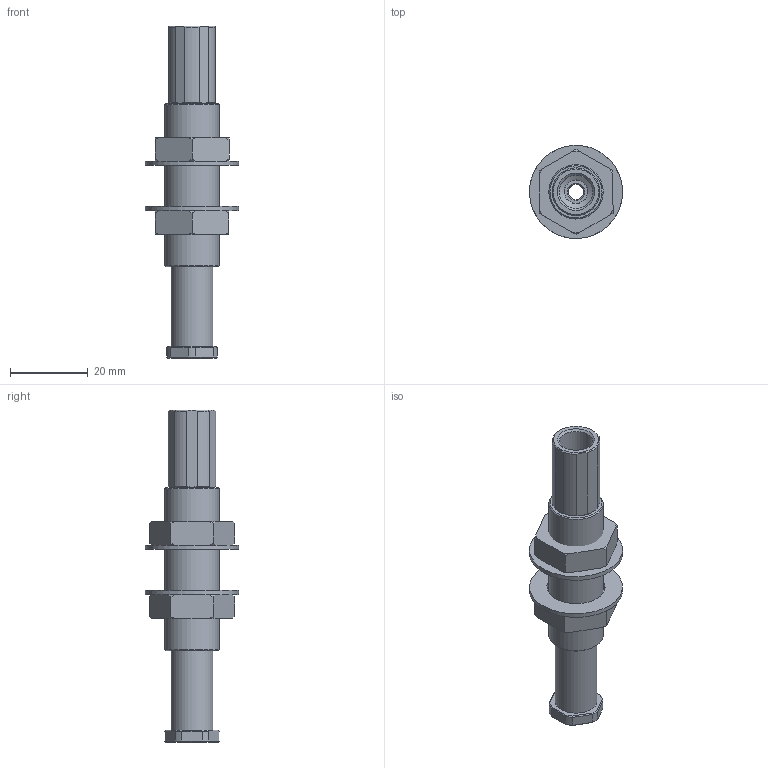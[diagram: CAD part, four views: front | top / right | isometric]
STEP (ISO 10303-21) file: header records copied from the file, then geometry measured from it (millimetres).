
FILE_DESCRIPTION(('STEP AP214'),'1');
FILE_NAME('CA.SDRG.1420.stp','2018-10-11T12:41:17',(' '),(' '),'Spatial InterOp 3D',' ',' ');
FILE_SCHEMA(('AUTOMOTIVE_DESIGN { 1 0 10303 214 1 1 1 1 }'));
Length unit declared in the file: millimetre
Products named in the file (7): CA.SDRG.1420; R.14.SCH; 05.01.001.06; M.8.45X34; SDRG.1420.02; VSN.14.1; SDR.1420.01
Assembly tree (8 placements, depth 2):
  CA.SDRG.1420
    R.14.SCH  x2
    05.01.001.06  x2
    M.8.45X34
    SDRG.1420.02
    VSN.14.1
    SDR.1420.01
Bounding box: 23.99 x 23.99 x 85.5 mm (x, y, z)
Volume: 9872.1 mm3; surface area: 12130.7 mm2
Topology: 8 solids, 8 shells, 136 faces, 317 edges, 200 vertices
Faces by surface type: plane 56, cone 49, cylinder 30, bspline 1
Full cylindrical faces by diameter (mm): 4 x1, 6 x1, 7 x3, 8.566 x3, 10.8 x1, 11 x1, 13 x2, 14 x1, 15 x2, 24 x2
Entity records: 6636 total; most frequent: CARTESIAN_POINT 3289, DIRECTION 478, ORIENTED_EDGE 440, EDGE_CURVE 220, AXIS2_PLACEMENT_3D 205, EDGE_LOOP 151, VERTEX_POINT 151, FACE_OUTER_BOUND 125
